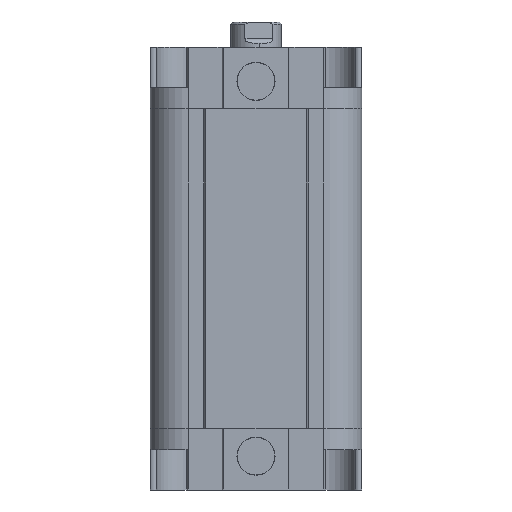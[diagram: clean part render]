
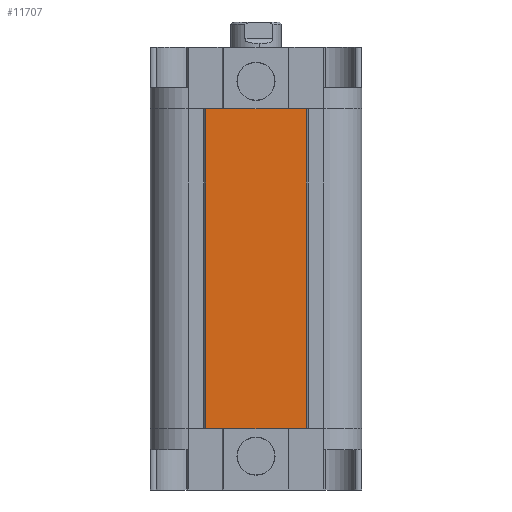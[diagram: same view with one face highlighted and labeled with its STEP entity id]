
A CAD part, front view. The second image highlights one B-rep face of the part: STEP entity #11707.
In plain terms, the highlighted planar face has unit normal (0, -1, 0).
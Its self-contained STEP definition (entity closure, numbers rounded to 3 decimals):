
#178 = CARTESIAN_POINT ( 'NONE',  ( 0., -27., 0. ) ) ;
#180 = DIRECTION ( 'NONE',  ( 0., 0., -1. ) ) ;
#219 = CARTESIAN_POINT ( 'NONE',  ( -11.85, -27., 0. ) ) ;
#300 = EDGE_CURVE ( 'NONE', #9199, #10743, #1270, .T. ) ;
#688 = EDGE_CURVE ( 'NONE', #9199, #5770, #9232, .T. ) ;
#691 = CARTESIAN_POINT ( 'NONE',  ( 11.85, -27., 37.75 ) ) ;
#975 = LINE ( 'NONE', #691, #5981 ) ;
#1255 = VECTOR ( 'NONE', #9842, 1000. ) ;
#1270 = LINE ( 'NONE', #4163, #8288 ) ;
#1423 = FACE_OUTER_BOUND ( 'NONE', #12120, .T. ) ;
#2070 = LINE ( 'NONE', #178, #12424 ) ;
#2879 = ORIENTED_EDGE ( 'NONE', *, *, #300, .T. ) ;
#4163 = CARTESIAN_POINT ( 'NONE',  ( -11.85, -27., 37.75 ) ) ;
#4554 = CARTESIAN_POINT ( 'NONE',  ( -11.85, -27., 75.5 ) ) ;
#5156 = DIRECTION ( 'NONE',  ( 0., -1., 0. ) ) ;
#5672 = DIRECTION ( 'NONE',  ( 0., 0., -1. ) ) ;
#5770 = VERTEX_POINT ( 'NONE', #10872 ) ;
#5981 = VECTOR ( 'NONE', #5672, 1000. ) ;
#6078 = PLANE ( 'NONE',  #9509 ) ;
#6110 = CARTESIAN_POINT ( 'NONE',  ( -11.85, -27., 75.5 ) ) ;
#6259 = ORIENTED_EDGE ( 'NONE', *, *, #688, .F. ) ;
#7159 = DIRECTION ( 'NONE',  ( 1., 0., 0. ) ) ;
#7175 = VERTEX_POINT ( 'NONE', #9947 ) ;
#8134 = ORIENTED_EDGE ( 'NONE', *, *, #11062, .F. ) ;
#8288 = VECTOR ( 'NONE', #180, 1000. ) ;
#8313 = ORIENTED_EDGE ( 'NONE', *, *, #10658, .T. ) ;
#8817 = CARTESIAN_POINT ( 'NONE',  ( 0., -27., 75.5 ) ) ;
#9199 = VERTEX_POINT ( 'NONE', #4554 ) ;
#9232 = LINE ( 'NONE', #8817, #1255 ) ;
#9509 = AXIS2_PLACEMENT_3D ( 'NONE', #6110, #5156, #12160 ) ;
#9842 = DIRECTION ( 'NONE',  ( 1., 0., 0. ) ) ;
#9947 = CARTESIAN_POINT ( 'NONE',  ( 11.85, -27., 0. ) ) ;
#10658 = EDGE_CURVE ( 'NONE', #10743, #7175, #2070, .T. ) ;
#10743 = VERTEX_POINT ( 'NONE', #219 ) ;
#10872 = CARTESIAN_POINT ( 'NONE',  ( 11.85, -27., 75.5 ) ) ;
#11062 = EDGE_CURVE ( 'NONE', #5770, #7175, #975, .T. ) ;
#11707 = ADVANCED_FACE ( 'NONE', ( #1423 ), #6078, .T. ) ;
#12120 = EDGE_LOOP ( 'NONE', ( #6259, #2879, #8313, #8134 ) ) ;
#12160 = DIRECTION ( 'NONE',  ( 0., 0., -1. ) ) ;
#12424 = VECTOR ( 'NONE', #7159, 1000. ) ;
